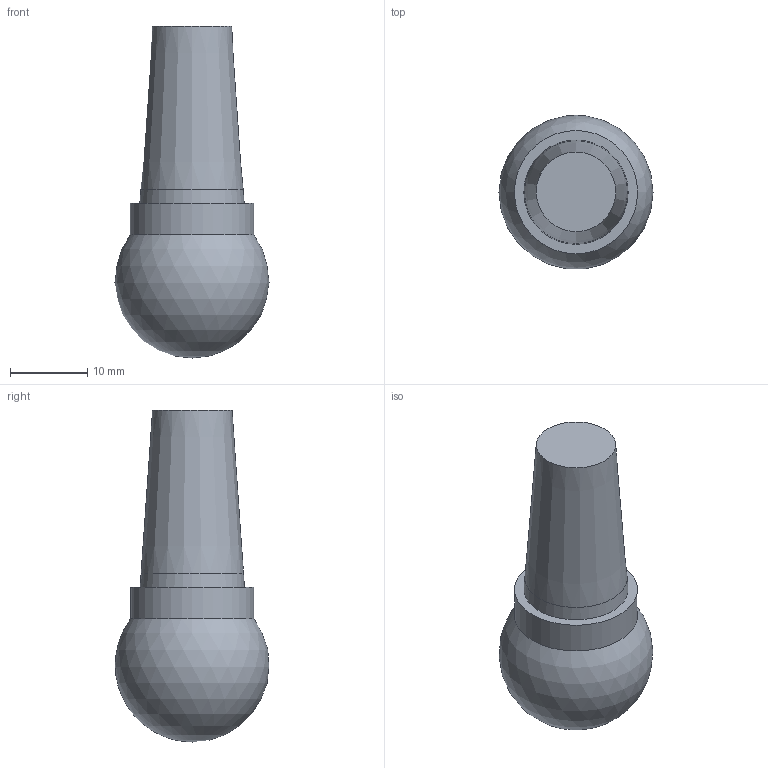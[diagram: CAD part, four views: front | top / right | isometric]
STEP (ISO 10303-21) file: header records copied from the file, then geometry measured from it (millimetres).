
FILE_DESCRIPTION(/* description */ (''),/* implementation_level */ '2;1');
FILE_NAME(/* name */ 'MM16-20020-B120PF-M04.stp',/* time_stamp */ '2020-07-29T14:35:05+05:00',/* author */ (''),/* organization */ (''),/* preprocessor_version */ 'ST-DEVELOPER v16.7',/* originating_system */ 'SIEMENS PLM Software NX 12.0',/* authorisation */ '');
FILE_SCHEMA (('AUTOMOTIVE_DESIGN { 1 0 10303 214 3 1 1 1 }'));
Length unit declared in the file: millimetre
Products named in the file (1): MM16-20020-B120PF-M04
Bounding box: 20 x 19.92 x 43.1 mm (x, y, z)
Volume: 7162.9 mm3; surface area: 2895.3 mm2
Topology: 3 solids, 3 shells, 10 faces, 13 edges, 9 vertices
Faces by surface type: plane 6, cone 2, cylinder 1, sphere 1
Full cylindrical faces by diameter (mm): 16 x1
Entity records: 238 total; most frequent: DIRECTION 42, CARTESIAN_POINT 28, AXIS2_PLACEMENT_3D 21, EDGE_LOOP 14, ORIENTED_EDGE 14, ADVANCED_FACE 10, FACE_BOUND 8, VERTEX_POINT 7
